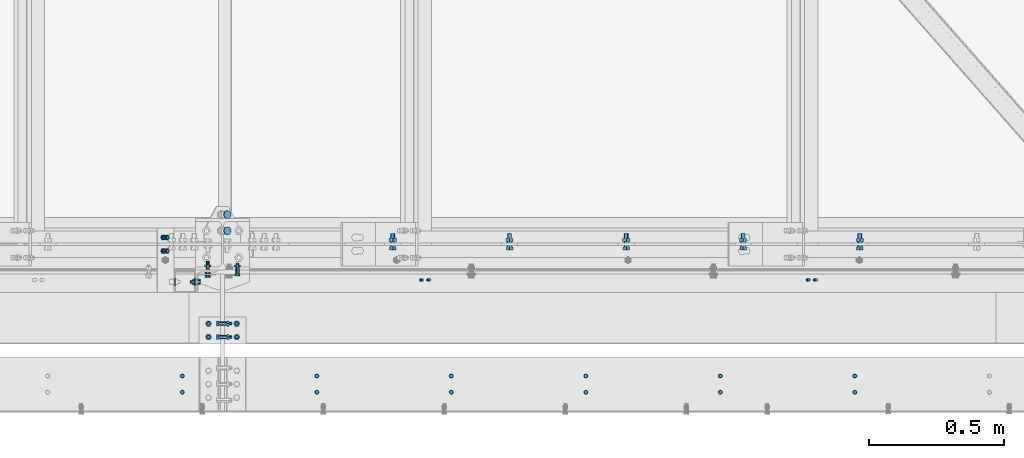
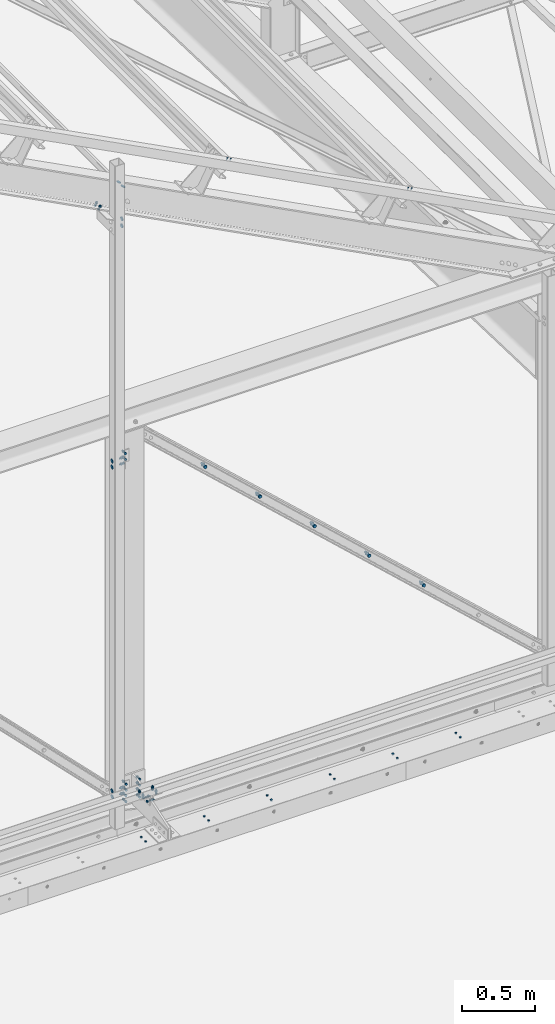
# One storey, part 256 of 362: 28 mechanical fasteners.
"""IFC2X3 building model written with IfcOpenShell, lengths in millimetres."""

import ifcopenshell
import ifcopenshell.guid

model = None  # the IFC model being written
_history = None  # IfcOwnerHistory: only IFC2X3 demands one
_inside = {}  # id of a spatial element -> (the spatial element, [elements in it])
_under = {}  # id of a project, library or spatial element -> (it, [spatial elements below it])
_declared = {}  # id of a project -> (the project, [libraries it declares])
_typed = {}  # id of a type object -> (the type object, [elements of that type])
_made_of = {}  # id of a material, layer set ... -> (it, [elements and type objects made of it])


def new_model(schema):
    """Start an empty IFC model of exactly this schema.

    Asked for "IFC4X3", IfcOpenShell would pick the latest addendum, in which some entities
    have other attributes; the version numbers below select the first issue.
    IFC2X3 requires an IfcOwnerHistory on every rooted entity: one is made here for all.
    """
    global model, _history
    if schema == "IFC4X3":
        model = ifcopenshell.file(schema_version=(4, 3, 0, 0))
    else:
        model = ifcopenshell.file(schema=schema)
    _inside.clear()
    _under.clear()
    _declared.clear()
    _typed.clear()
    _made_of.clear()
    _history = None
    if model.schema == "IFC2X3":
        org = make("IfcOrganization", Name="unknown")
        user = make(
            "IfcPersonAndOrganization",
            ThePerson=make("IfcPerson", FamilyName="unknown"),
            TheOrganization=org,
        )
        app = make(
            "IfcApplication",
            ApplicationDeveloper=org,
            Version="unknown",
            ApplicationFullName="unknown",
            ApplicationIdentifier="unknown",
        )
        _history = make(
            "IfcOwnerHistory",
            OwningUser=user,
            OwningApplication=app,
            ChangeAction="ADDED",
            CreationDate=0,
        )
    return model


def make(cls, **values):
    """One entity of the class cls with the attributes given. An attribute that is None is left unset."""
    return model.create_entity(
        cls, **{name: value for name, value in values.items() if value is not None}
    )


def rooted(cls, **values):
    """An entity with a GlobalId (a new one), such as an element, a storey or a relation."""
    return make(cls, GlobalId=ifcopenshell.guid.new(), OwnerHistory=_history, **values)


def si_unit(unit_type, name, prefix=None):
    """IfcSIUnit, for example si_unit("LENGTHUNIT", "METRE", prefix="MILLI")."""
    return make("IfcSIUnit", UnitType=unit_type, Prefix=prefix, Name=name)


def assignment(units):
    """IfcUnitAssignment: the units of a project."""
    return None if units is None else make("IfcUnitAssignment", Units=units)


def point(xyz):
    """IfcCartesianPoint."""
    return None if xyz is None else make("IfcCartesianPoint", Coordinates=xyz)


def direction(xyz):
    """IfcDirection."""
    return None if xyz is None else make("IfcDirection", DirectionRatios=xyz)


def frame(location, z_axis=None, x_axis=None):
    """IfcAxis2Placement3D, a coordinate frame: its origin and axes. An axis left out is left unset."""
    return make(
        "IfcAxis2Placement3D",
        Location=point(location),
        Axis=direction(z_axis),
        RefDirection=direction(x_axis),
    )


def frame_2d(location, x_axis=None):
    """IfcAxis2Placement2D, a coordinate frame in the plane: its origin and x axis."""
    return make(
        "IfcAxis2Placement2D", Location=point(location), RefDirection=direction(x_axis)
    )


def origin_with_axes():
    """The frame at (0, 0, 0) with the z axis (0, 0, 1) and the x axis (1, 0, 0) written out."""
    return frame((0.0, 0.0, 0.0), z_axis=(0.0, 0.0, 1.0), x_axis=(1.0, 0.0, 0.0))


def origin_2d_with_axis():
    """The frame at (0, 0) in the plane with the x axis (1, 0) written out."""
    return frame_2d((0.0, 0.0), x_axis=(1.0, 0.0))


def place(relative_to, where):
    """IfcLocalPlacement: puts the frame where relative to a parent placement (None: the world)."""
    return make(
        "IfcLocalPlacement", PlacementRelTo=relative_to, RelativePlacement=where
    )


def context(
    kind, dimensions, precision=None, world=None, true_north=None, identifier=None
):
    """IfcGeometricRepresentationContext, for example the 3D "Model" context."""
    return make(
        "IfcGeometricRepresentationContext",
        ContextIdentifier=identifier,
        ContextType=kind,
        CoordinateSpaceDimension=dimensions,
        Precision=precision,
        WorldCoordinateSystem=world,
        TrueNorth=true_north,
    )


def subcontext(parent, identifier, kind, view, scale=None):
    """IfcGeometricRepresentationSubContext, for example "Body" below "Model"."""
    return make(
        "IfcGeometricRepresentationSubContext",
        ContextIdentifier=identifier,
        ContextType=kind,
        ParentContext=parent,
        TargetScale=scale,
        TargetView=view,
    )


def project(units=None, contexts=None):
    """IfcProject with its units and contexts."""
    return rooted(
        "IfcProject",
        Name="project",
        RepresentationContexts=contexts,
        UnitsInContext=assignment(units),
    )


def spatial(cls, under=None, at=None, **own):
    """A site, building, storey or space (cls), placed at a placement, below another one or the project."""
    s = rooted(cls, ObjectPlacement=at, **own)
    if under is not None:
        _under.setdefault(under.id(), (under, []))[1].append(s)
    return s


def polyline(points):
    """IfcPolyline through the points."""
    return make("IfcPolyline", Points=[point(p) for p in points])


def circle_curve(where, radius):
    """IfcCircle in the frame where."""
    return make("IfcCircle", Position=where, Radius=radius)


def parameter(value):
    """IfcParameterValue: where a trimmed curve begins or ends, as a parameter of its basis curve."""
    return model.create_entity("IfcParameterValue", value)


def trimmed(basis, trim1, trim2, sense, master):
    """IfcTrimmedCurve: the piece of a basis curve between two trims."""
    return make(
        "IfcTrimmedCurve",
        BasisCurve=basis,
        Trim1=trim1,
        Trim2=trim2,
        SenseAgreement=sense,
        MasterRepresentation=master,
    )


def segment(curve, same_sense, transition):
    """IfcCompositeCurveSegment."""
    return make(
        "IfcCompositeCurveSegment",
        Transition=transition,
        SameSense=same_sense,
        ParentCurve=curve,
    )


def composite_curve(segments, self_intersect=None):
    """IfcCompositeCurve: segments joined end to end."""
    return make("IfcCompositeCurve", Segments=segments, SelfIntersect=self_intersect)


def profile(cls, at=None, kind="AREA", **sizes):
    """A parametric profile (cls). Its sizes go by their IFC names, for example OverallWidth=200.0."""
    return make(cls, ProfileType=kind, Position=at, **sizes)


def circle(**sizes):
    """IfcCircleProfileDef."""
    return profile("IfcCircleProfileDef", **sizes)


def outline(outer, holes=None, kind="AREA"):
    """IfcArbitraryClosedProfileDef: a profile drawn as a closed curve; with holes, ...WithVoids."""
    if holes is None:
        return make("IfcArbitraryClosedProfileDef", ProfileType=kind, OuterCurve=outer)
    return make(
        "IfcArbitraryProfileDefWithVoids",
        ProfileType=kind,
        OuterCurve=outer,
        InnerCurves=holes,
    )


def extrude(swept, where, along, depth):
    """IfcExtrudedAreaSolid: the profile swept, set in the frame where, extruded along a direction by depth."""
    return make(
        "IfcExtrudedAreaSolid",
        SweptArea=swept,
        Position=where,
        ExtrudedDirection=direction(along),
        Depth=depth,
    )


def shape(context_of_items, identifier, shape_type, items):
    """IfcShapeRepresentation: the items that make up one representation, for example the "Body"."""
    return make(
        "IfcShapeRepresentation",
        ContextOfItems=context_of_items,
        RepresentationIdentifier=identifier,
        RepresentationType=shape_type,
        Items=items,
    )


def source(mapping_origin, context_of_items, identifier, shape_type, items):
    """IfcRepresentationMap: a shape defined once, which mapped items show again and again."""
    return make(
        "IfcRepresentationMap",
        MappingOrigin=mapping_origin,
        MappedRepresentation=shape(context_of_items, identifier, shape_type, items),
    )


def transform(
    local_origin,
    x_axis=None,
    y_axis=None,
    z_axis=None,
    scale=None,
    scale2=None,
    scale3=None,
    uniform=True,
):
    """IfcCartesianTransformationOperator3D, or its non-uniform kind. x_axis, y_axis, z_axis: its Axis1, 2, 3."""
    if uniform:
        return make(
            "IfcCartesianTransformationOperator3D",
            Axis1=direction(x_axis),
            Axis2=direction(y_axis),
            LocalOrigin=point(local_origin),
            Scale=scale,
            Axis3=direction(z_axis),
        )
    return make(
        "IfcCartesianTransformationOperator3DnonUniform",
        Axis1=direction(x_axis),
        Axis2=direction(y_axis),
        LocalOrigin=point(local_origin),
        Scale=scale,
        Axis3=direction(z_axis),
        Scale2=scale2,
        Scale3=scale3,
    )


def mapped(mapping_source, mapping_target):
    """IfcMappedItem: shows the shape of a source again, moved by a transform."""
    return make(
        "IfcMappedItem", MappingSource=mapping_source, MappingTarget=mapping_target
    )


def material(Name=None, Category=None):
    """IfcMaterial."""
    return make("IfcMaterial", Name=Name, Category=Category)


def made_of(thing, what):
    """Note that an element or type object is made of a material, layer set ...; save() writes the relation."""
    if what is not None:
        _made_of.setdefault(what.id(), (what, []))[1].append(thing)
    return thing


def type_object(cls, material=None, **own):
    """A type object (cls), such as IfcWallType, which elements share."""
    return made_of(rooted(cls, **own), material)


def element(
    cls,
    number,
    at=None,
    inside=None,
    cuts=None,
    type_object=None,
    material=None,
    context=None,
    identifier="Body",
    shape_type=None,
    held_by="IfcProductDefinitionShape",
    body=None,
    shapes=None,
    **own,
):
    """One element of the class cls, such as IfcWall. Its Tag is "e" and its number.

    at: its placement. inside: the storey or other place that contains it. cuts: it is an
    opening in that element (IfcRelVoidsElement). A single representation is given by context,
    identifier, shape_type and body (its items); several are given by shapes. held_by: the class
    of the entity that holds the representations. save() writes the other relations.
    """
    e = rooted(cls, Tag="e%d" % number, ObjectPlacement=at, **own)
    if body is not None:
        shapes = [shape(context, identifier, shape_type, body)]
    if shapes is not None:
        e.Representation = make(held_by, Representations=shapes)
    if inside is not None:
        _inside.setdefault(inside.id(), (inside, []))[1].append(e)
    if cuts is not None:
        rooted(
            "IfcRelVoidsElement", RelatingBuildingElement=cuts, RelatedOpeningElement=e
        )
    if type_object is not None:
        _typed.setdefault(type_object.id(), (type_object, []))[1].append(e)
    return made_of(e, material)


def aggregate(whole, parts):
    """IfcRelAggregates: a whole, such as a stair, and the parts it consists of."""
    return rooted("IfcRelAggregates", RelatingObject=whole, RelatedObjects=parts)


def save(model, path):
    """Write the relations noted so far, then the file.

    IfcRelAggregates (storeys below a building ...), IfcRelContainedInSpatialStructure (elements
    in a storey), IfcRelDefinesByType, IfcRelAssociatesMaterial and IfcRelDeclares: one each for
    every whole, place, type object, material and project.
    """
    for whole, parts in _under.values():
        aggregate(whole, parts)
    for where, things in _inside.values():
        rooted(
            "IfcRelContainedInSpatialStructure",
            RelatedElements=things,
            RelatingStructure=where,
        )
    for kind, things in _typed.values():
        rooted("IfcRelDefinesByType", RelatedObjects=things, RelatingType=kind)
    for what, things in _made_of.values():
        rooted("IfcRelAssociatesMaterial", RelatedObjects=things, RelatingMaterial=what)
    for by, libraries in _declared.values():
        rooted("IfcRelDeclares", RelatingContext=by, RelatedDefinitions=libraries)
    model.write(path)


model = new_model("IFC2X3")

# Units and contexts
model_context = context("Model", 3, precision=1e-05, world=origin_with_axes())
body_context = subcontext(model_context, "Body", "Model", "MODEL_VIEW")
ifc_project = project(units=[si_unit("LENGTHUNIT", "METRE", prefix="MILLI"), si_unit("AREAUNIT", "SQUARE_METRE"), si_unit("VOLUMEUNIT", "CUBIC_METRE"), si_unit("MASSUNIT", "GRAM", prefix="KILO"), si_unit("TIMEUNIT", "SECOND"), si_unit("PLANEANGLEUNIT", "RADIAN"), si_unit("SOLIDANGLEUNIT", "STERADIAN"), si_unit("THERMODYNAMICTEMPERATUREUNIT", "DEGREE_CELSIUS"), si_unit("LUMINOUSINTENSITYUNIT", "LUMEN")], contexts=[model_context])

# Site, building, storey
site_placement = place(None, origin_with_axes())
site = spatial("IfcSite", under=ifc_project, at=site_placement, Name="Undefined", CompositionType="ELEMENT")
building_placement = place(site_placement, origin_with_axes())
building = spatial("IfcBuilding", under=site, at=building_placement, Name="Undefined", CompositionType="ELEMENT")
storey_placement = place(building_placement, origin_with_axes())
storey = spatial("IfcBuildingStorey", under=building, at=storey_placement, Name="Undefined", CompositionType="ELEMENT", Elevation=0.0)

# Mechanical fasteners
ifc_material_1 = material(Name="8.8-SB-ZINGUE")
mechanical_fastener_type = type_object("IfcMechanicalFastenerType", Name="Bolt assembly")
shared_shape_1 = source(origin_with_axes(), body_context, "Body", "SweptSolid", [
    extrude(circle(Radius=7.0, at=origin_2d_with_axis()), frame((0.0, -8.5, 0.0), z_axis=(0.0, 1.0, 0.0), x_axis=(1.0, 0.0, 0.0)), (0.0, 0.0, 1.0), 8.6),
])
for number, where, z_axis, x_axis, name in (
    (1, (18464.9989211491, -490.0, 5229.99824538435), (-1.0, 0.0, 0.0), (0.0, -1.0, 0.0), "Bolt assembly"),
    (2, (17964.9989211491, -490.0, 5229.99824538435), (-1.0, 0.0, 0.0), (0.0, -1.0, 0.0), "Bolt assembly"),
    (3, (17464.9989211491, -490.0, 5229.99824538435), (-1.0, 0.0, 0.0), (0.0, -1.0, 0.0), "Bolt assembly"),
    (4, (16964.9989211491, -490.0, 5229.99824538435), (-1.0, 0.0, 0.0), (0.0, -1.0, 0.0), "Bolt assembly"),
    (5, (16464.9989211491, -490.0, 5229.99824538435), (-1.0, 0.0, 0.0), (0.0, -1.0, 0.0), "Bolt assembly"),
    (6, (15964.9989211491, -490.0, 5229.99824538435), (-1.0, 0.0, 0.0), (0.0, -1.0, 0.0), "Bolt assembly"),
):
    element("IfcMechanicalFastener", number, at=place(storey_placement, frame(where, z_axis=z_axis, x_axis=x_axis)), inside=storey, type_object=mechanical_fastener_type, material=ifc_material_1, Name=name, NominalDiameter=12.0, NominalLength=8.5, context=body_context, shape_type="MappedRepresentation", body=[
        mapped(shared_shape_1, transform((0.0, 0.0, 0.0))),
        mapped(shared_shape_1, transform((60.0, 0.0, 0.0))),
    ])
shared_shape_2 = source(origin_with_axes(), body_context, "Body", "SweptSolid", [
    extrude(circle(Radius=7.0, at=origin_2d_with_axis()), frame((0.0, -7.5, 0.0), z_axis=(0.0, 1.0, 0.0), x_axis=(1.0, 0.0, 0.0)), (0.0, 0.0, 1.0), 15.0),
    extrude(circle(Radius=7.0, at=origin_2d_with_axis()), frame((0.0, -15.4, 0.0), z_axis=(0.0, 1.0, 0.0), x_axis=(1.0, 0.0, 0.0)), (0.0, 0.0, 1.0), 8.0),
    extrude(circle(Radius=7.0, at=origin_2d_with_axis()), frame((0.0, 7.39216762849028, 0.0), z_axis=(0.0, 1.0, 0.0), x_axis=(1.0, 0.0, 0.0)), (0.0, 0.0, 1.0), 8.1),
    extrude(outline(polyline([(10.39230484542, 0.0), (5.19615242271, 9.00000000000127), (-5.19615242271, 9.00000000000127), (-10.39230484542, 0.0), (-5.19615242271, -9.00000000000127), (5.19615242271, -9.00000000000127), (10.39230484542, 0.0)])), frame((0.0, -23.42, 0.0), z_axis=(0.0, 1.0, 0.0), x_axis=(1.0, 0.0, 0.0)), (0.0, 0.0, 1.0), 7.92),
    extrude(circle(Radius=6.0, at=origin_2d_with_axis()), frame((0.0, -15.5, 0.0), z_axis=(0.0, 1.0, 0.0), x_axis=(1.0, 0.0, 0.0)), (0.0, 0.0, 1.0), 50.0),
    extrude(outline(polyline([(11.5008173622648, 0.0), (5.7504086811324, 9.96000000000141), (-5.7504086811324, 9.96000000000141), (-11.5008173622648, 0.0), (-5.7504086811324, -9.96000000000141), (5.7504086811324, -9.96000000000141), (11.5008173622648, 0.0)])), frame((0.0, 15.4921676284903, 0.0), z_axis=(0.0, 1.0, 0.0), x_axis=(1.0, 0.0, 0.0)), (0.0, 0.0, 1.0), 7.92),
])
mechanical_fastener_1_placement = place(storey_placement, frame((16114.9985840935, -320.0, 5394.99824538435), z_axis=(0.0, 1.0, 0.0), x_axis=(0.0, 0.0, 1.0)))
element("IfcMechanicalFastener", 7, at=mechanical_fastener_1_placement, inside=storey, type_object=mechanical_fastener_type, material=ifc_material_1, Name="Bolt assembly", NominalDiameter=12.0, NominalLength=50.0, context=body_context, shape_type="MappedRepresentation", body=[
    mapped(shared_shape_2, transform((0.0, 0.0, -25.0))),
    mapped(shared_shape_2, transform((0.0, 0.0, 25.0))),
])
shared_shape_3 = source(origin_with_axes(), body_context, "Body", "SweptSolid", [
    extrude(circle(Radius=7.0, at=origin_2d_with_axis()), frame((0.0, -0.100011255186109, 0.0), z_axis=(0.0, 1.0, 0.0), x_axis=(1.0, 0.0, 0.0)), (0.0, 0.0, 1.0), 4.1),
    extrude(circle(Radius=7.0, at=origin_2d_with_axis()), frame((0.0, -7.9, 0.0), z_axis=(0.0, 1.0, 0.0), x_axis=(1.0, 0.0, 0.0)), (0.0, 0.0, 1.0), 8.0),
    extrude(outline(polyline([(10.39230484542, 0.0), (5.19615242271, 9.00000000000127), (-5.19615242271, 9.00000000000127), (-10.39230484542, 0.0), (-5.19615242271, -9.00000000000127), (5.19615242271, -9.00000000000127), (10.39230484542, 0.0)])), frame((0.0, -15.92, 0.0), z_axis=(0.0, 1.0, 0.0), x_axis=(1.0, 0.0, 0.0)), (0.0, 0.0, 1.0), 7.92),
    extrude(circle(Radius=6.0, at=origin_2d_with_axis()), frame((0.0, -8.0, 0.0), z_axis=(0.0, 1.0, 0.0), x_axis=(1.0, 0.0, 0.0)), (0.0, 0.0, 1.0), 30.0),
    extrude(outline(polyline([(11.5008173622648, 0.0), (5.7504086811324, 9.96000000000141), (-5.7504086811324, 9.96000000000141), (-11.5008173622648, 0.0), (-5.7504086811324, -9.96000000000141), (5.7504086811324, -9.96000000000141), (11.5008173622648, 0.0)])), frame((0.0, 4.00000005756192, 0.0), z_axis=(0.0, 1.0, 0.0), x_axis=(1.0, 0.0, 0.0)), (0.0, 0.0, 1.0), 7.92),
])
for number, where, z_axis, x_axis, name in (
    (8, (16062.4985840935, -320.0, 5449.99824532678), (0.0, -1.0, 0.0), (1.0, 0.0, 0.0), "Bolt assembly"),
    (9, (16167.490751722, -320.0, 5449.99824532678), (0.0, 1.0, 0.0), (-1.0, 0.0, 0.0), "Bolt assembly"),
    (10, (16014.9998811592, -140.000000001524, 8160.00066228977), (0.0, 0.0, 1.0), (0.0, 1.0, 0.0), "Bolt assembly"),
):
    element("IfcMechanicalFastener", number, at=place(storey_placement, frame(where, z_axis=z_axis, x_axis=x_axis)), inside=storey, type_object=mechanical_fastener_type, material=ifc_material_1, Name=name, NominalDiameter=12.0, NominalLength=30.0, context=body_context, shape_type="MappedRepresentation", body=[
        mapped(shared_shape_3, transform((0.0, 0.0, -25.0))),
        mapped(shared_shape_3, transform((0.0, 0.0, 25.0))),
    ])
shared_shape_4 = source(origin_with_axes(), body_context, "Body", "SweptSolid", [
    extrude(circle(Radius=7.0, at=origin_2d_with_axis()), frame((0.0, 4.89855588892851, 0.0), z_axis=(0.0, 1.0, 0.0), x_axis=(1.0, 0.0, 0.0)), (0.0, 0.0, 1.0), 10.1),
    extrude(circle(Radius=7.0, at=origin_2d_with_axis()), frame((0.0, -9.90144411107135, 0.0), z_axis=(0.0, 1.0, 0.0), x_axis=(1.0, 0.0, 0.0)), (0.0, 0.0, 1.0), 15.0),
    extrude(outline(polyline([(10.39230484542, 0.0), (5.19615242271, 9.00000000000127), (-5.19615242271, 9.00000000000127), (-10.39230484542, 0.0), (-5.19615242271, -9.00000000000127), (5.19615242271, -9.00000000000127), (10.39230484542, 0.0)])), frame((0.0, -17.9214441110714, 0.0), z_axis=(0.0, 1.0, 0.0), x_axis=(1.0, 0.0, 0.0)), (0.0, 0.0, 1.0), 7.92),
    extrude(circle(Radius=6.0, at=origin_2d_with_axis()), frame((0.0, -10.0014441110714, 0.0), z_axis=(0.0, 1.0, 0.0), x_axis=(1.0, 0.0, 0.0)), (0.0, 0.0, 1.0), 40.0),
    extrude(outline(polyline([(11.5008173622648, 0.0), (5.7504086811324, 9.96000000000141), (-5.7504086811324, 9.96000000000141), (-11.5008173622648, 0.0), (-5.7504086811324, -9.96000000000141), (5.7504086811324, -9.96000000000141), (11.5008173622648, 0.0)])), frame((0.0, 14.9985558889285, 0.0), z_axis=(0.0, 1.0, 0.0), x_axis=(1.0, 0.0, 0.0)), (0.0, 0.0, 1.0), 7.92),
])
mechanical_fastener_2_placement = place(storey_placement, frame((16169.9984863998, -99.9985558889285, 5290.00066228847), z_axis=(0.0, 0.0, 1.0), x_axis=(1.0, 0.0, 0.0)))
element("IfcMechanicalFastener", 11, at=mechanical_fastener_2_placement, inside=storey, type_object=mechanical_fastener_type, material=ifc_material_1, Name="Bolt assembly", NominalDiameter=12.0, NominalLength=40.0, context=body_context, shape_type="MappedRepresentation", body=[
    mapped(shared_shape_4, transform((0.0, 0.0, 25.0))),
    mapped(shared_shape_4, transform((0.0, 0.0, -25.0))),
])
mechanical_fastener_3_placement = place(storey_placement, frame((16059.9998811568, -99.9985558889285, 5290.00066228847), z_axis=(0.0, 0.0, -1.0), x_axis=(-1.0, 0.0, 0.0)))
element("IfcMechanicalFastener", 12, at=mechanical_fastener_3_placement, inside=storey, type_object=mechanical_fastener_type, material=ifc_material_1, Name="Bolt assembly", NominalDiameter=12.0, NominalLength=40.0, context=body_context, shape_type="MappedRepresentation", body=[
    mapped(shared_shape_4, transform((0.0, 0.0, -25.0))),
    mapped(shared_shape_4, transform((0.0, 0.0, 25.0))),
])
shared_shape_5 = source(origin_with_axes(), body_context, "Body", "SweptSolid", [
    extrude(circle(Radius=7.0, at=origin_2d_with_axis()), frame((0.0, -0.100011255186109, 0.0), z_axis=(0.0, 1.0, 0.0), x_axis=(1.0, 0.0, 0.0)), (0.0, 0.0, 1.0), 10.1),
    extrude(circle(Radius=7.0, at=origin_2d_with_axis()), frame((0.0, -14.899999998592, 0.0), z_axis=(0.0, 1.0, 0.0), x_axis=(1.0, 0.0, 0.0)), (0.0, 0.0, 1.0), 15.0),
    extrude(outline(polyline([(10.39230484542, 0.0), (5.19615242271, 9.00000000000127), (-5.19615242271, 9.00000000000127), (-10.39230484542, 0.0), (-5.19615242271, -9.00000000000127), (5.19615242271, -9.00000000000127), (10.39230484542, 0.0)])), frame((0.0, -22.919999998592, 0.0), z_axis=(0.0, 1.0, 0.0), x_axis=(1.0, 0.0, 0.0)), (0.0, 0.0, 1.0), 7.92),
    extrude(circle(Radius=6.0, at=origin_2d_with_axis()), frame((0.0, -14.999999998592, 0.0), z_axis=(0.0, 1.0, 0.0), x_axis=(1.0, 0.0, 0.0)), (0.0, 0.0, 1.0), 40.0),
    extrude(outline(polyline([(11.5008173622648, 0.0), (5.7504086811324, 9.96000000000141), (-5.7504086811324, 9.96000000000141), (-11.5008173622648, 0.0), (-5.7504086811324, -9.96000000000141), (5.7504086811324, -9.96000000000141), (11.5008173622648, 0.0)])), frame((0.0, 10.0000000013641, 0.0), z_axis=(0.0, 1.0, 0.0), x_axis=(1.0, 0.0, 0.0)), (0.0, 0.0, 1.0), 7.92),
])
mechanical_fastener_4_placement = place(storey_placement, frame((16169.9984864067, -95.0000000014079, 5390.00066228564), z_axis=(0.0, 0.0, 1.0), x_axis=(1.0, 0.0, 0.0)))
element("IfcMechanicalFastener", 13, at=mechanical_fastener_4_placement, inside=storey, type_object=mechanical_fastener_type, material=ifc_material_1, Name="Bolt assembly", NominalDiameter=12.0, NominalLength=40.0, context=body_context, shape_type="MappedRepresentation", body=[
    mapped(shared_shape_5, transform((0.0, 0.0, 25.0))),
    mapped(shared_shape_5, transform((0.0, 0.0, -25.0))),
])
shared_shape_6 = source(origin_with_axes(), body_context, "Body", "SweptSolid", [
    extrude(circle(Radius=7.0, at=origin_2d_with_axis()), frame((0.0, -0.100011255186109, 0.0), z_axis=(0.0, 1.0, 0.0), x_axis=(1.0, 0.0, 0.0)), (0.0, 0.0, 1.0), 10.1),
    extrude(circle(Radius=7.0, at=origin_2d_with_axis()), frame((0.0, -14.999999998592, 0.0), z_axis=(0.0, 1.0, 0.0), x_axis=(1.0, 0.0, 0.0)), (0.0, 0.0, 1.0), 15.0),
    extrude(circle(Radius=7.0, at=origin_2d_with_axis()), frame((0.0, -19.900541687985, 0.0), z_axis=(0.0, 1.0, 0.0), x_axis=(1.0, 0.0, 0.0)), (0.0, 0.0, 1.0), 5.0),
    extrude(outline(polyline([(10.39230484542, 0.0), (5.19615242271, 9.00000000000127), (-5.19615242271, 9.00000000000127), (-10.39230484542, 0.0), (-5.19615242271, -9.00000000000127), (5.19615242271, -9.00000000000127), (10.39230484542, 0.0)])), frame((0.0, -27.920541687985, 0.0), z_axis=(0.0, 1.0, 0.0), x_axis=(1.0, 0.0, 0.0)), (0.0, 0.0, 1.0), 7.92),
    extrude(circle(Radius=6.0, at=origin_2d_with_axis()), frame((0.0, -20.000541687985, 0.0), z_axis=(0.0, 1.0, 0.0), x_axis=(1.0, 0.0, 0.0)), (0.0, 0.0, 1.0), 50.0),
    extrude(outline(polyline([(11.5008173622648, 0.0), (5.7504086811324, 9.96000000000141), (-5.7504086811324, 9.96000000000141), (-11.5008173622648, 0.0), (-5.7504086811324, -9.96000000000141), (5.7504086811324, -9.96000000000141), (11.5008173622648, 0.0)])), frame((0.0, 10.0000000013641, 0.0), z_axis=(0.0, 1.0, 0.0), x_axis=(1.0, 0.0, 0.0)), (0.0, 0.0, 1.0), 7.92),
])
mechanical_fastener_5_placement = place(storey_placement, frame((16059.9998811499, -95.0000000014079, 5390.00066228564), z_axis=(0.0, 0.0, -1.0), x_axis=(-1.0, 0.0, 0.0)))
element("IfcMechanicalFastener", 14, at=mechanical_fastener_5_placement, inside=storey, type_object=mechanical_fastener_type, material=ifc_material_1, Name="Bolt assembly", NominalDiameter=12.0, NominalLength=50.0, context=body_context, shape_type="MappedRepresentation", body=[
    mapped(shared_shape_6, transform((0.0, 0.0, -25.0))),
    mapped(shared_shape_6, transform((0.0, 0.0, 25.0))),
])
ifc_material_2 = material(Name="6.8")
shared_shape_7 = source(origin_with_axes(), body_context, "Body", "SweptSolid", [
    extrude(circle(Radius=15.0, at=origin_2d_with_axis()), frame((0.0, 0.0, 0.0), z_axis=(0.0, 1.0, 0.0), x_axis=(1.0, 0.0, 0.0)), (0.0, 0.0, 1.0), 4.1),
])
mechanical_fastener_6_placement = place(storey_placement, frame((16014.9998811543, -140.000000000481, 10133.0034118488), z_axis=(0.0, -1.0, 0.0), x_axis=(0.0, 0.0, 1.0)))
element("IfcMechanicalFastener", 15, at=mechanical_fastener_6_placement, inside=storey, type_object=mechanical_fastener_type, material=ifc_material_2, Name="Bolt assembly", NominalDiameter=30.0, NominalLength=4.0, context=body_context, shape_type="MappedRepresentation", body=[
    mapped(shared_shape_7, transform((0.0, 0.0, 0.0))),
    mapped(shared_shape_7, transform((60.0, 0.0, 0.0))),
])
shared_shape_8 = source(origin_with_axes(), body_context, "Body", "SweptSolid", [
    extrude(circle(Radius=15.0, at=origin_2d_with_axis()), frame((0.0, -3.99999923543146, 0.0), z_axis=(0.0, 1.0, 0.0), x_axis=(1.0, 0.0, 0.0)), (0.0, 0.0, 1.0), 4.1),
])
for number, where, z_axis, x_axis, name in (
    (16, (15934.9998811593, -140.000000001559, 8160.00066228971), (0.0, 0.0, 1.0), (0.0, 1.0, 0.0), "Bolt assembly"),
    (17, (15934.999881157, -140.000000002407, 5390.00066228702), (0.0, 0.0, 1.0), (0.0, 1.0, 0.0), "Bolt assembly"),
):
    element("IfcMechanicalFastener", number, at=place(storey_placement, frame(where, z_axis=z_axis, x_axis=x_axis)), inside=storey, type_object=mechanical_fastener_type, material=ifc_material_2, Name=name, NominalDiameter=30.0, NominalLength=4.0, context=body_context, shape_type="MappedRepresentation", body=[
        mapped(shared_shape_8, transform((0.0, 0.0, -25.0))),
        mapped(shared_shape_8, transform((0.0, 0.0, 25.0))),
    ])
shared_shape_9 = source(origin_with_axes(), body_context, "Body", "SweptSolid", [
    extrude(circle(Radius=7.0, at=origin_2d_with_axis()), frame((0.0, -0.100011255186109, 0.0), z_axis=(0.0, 1.0, 0.0), x_axis=(1.0, 0.0, 0.0)), (0.0, 0.0, 1.0), 10.1),
    extrude(circle(Radius=7.0, at=origin_2d_with_axis()), frame((0.0, -7.9, 0.0), z_axis=(0.0, 1.0, 0.0), x_axis=(1.0, 0.0, 0.0)), (0.0, 0.0, 1.0), 8.0),
    extrude(outline(polyline([(10.39230484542, 0.0), (5.19615242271, 9.00000000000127), (-5.19615242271, 9.00000000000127), (-10.39230484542, 0.0), (-5.19615242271, -9.00000000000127), (5.19615242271, -9.00000000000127), (10.39230484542, 0.0)])), frame((0.0, -15.92, 0.0), z_axis=(0.0, 1.0, 0.0), x_axis=(1.0, 0.0, 0.0)), (0.0, 0.0, 1.0), 7.92),
    extrude(circle(Radius=6.0, at=origin_2d_with_axis()), frame((0.0, -8.0, 0.0), z_axis=(0.0, 1.0, 0.0), x_axis=(1.0, 0.0, 0.0)), (0.0, 0.0, 1.0), 40.0),
    extrude(outline(polyline([(11.5008173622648, 0.0), (5.7504086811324, 9.96000000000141), (-5.7504086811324, 9.96000000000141), (-11.5008173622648, 0.0), (-5.7504086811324, -9.96000000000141), (5.7504086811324, -9.96000000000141), (11.5008173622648, 0.0)])), frame((0.0, 10.0000000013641, 0.0), z_axis=(0.0, 1.0, 0.0), x_axis=(1.0, 0.0, 0.0)), (0.0, 0.0, 1.0), 7.92),
])
mechanical_fastener_7_placement = place(storey_placement, frame((16059.9998811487, -95.000000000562, 8160.00066228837), z_axis=(0.0, 0.0, -1.0), x_axis=(-1.0, 0.0, 0.0)))
element("IfcMechanicalFastener", 18, at=mechanical_fastener_7_placement, inside=storey, type_object=mechanical_fastener_type, material=ifc_material_1, Name="Bolt assembly", NominalDiameter=12.0, NominalLength=40.0, context=body_context, shape_type="MappedRepresentation", body=[
    mapped(shared_shape_9, transform((0.0, 0.0, -25.0))),
    mapped(shared_shape_9, transform((0.0, 0.0, 25.0))),
])
shared_shape_10 = source(origin_with_axes(), body_context, "Body", "SweptSolid", [
    extrude(circle(Radius=7.0, at=origin_2d_with_axis()), frame((0.0, -0.100011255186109, 0.0), z_axis=(0.0, 1.0, 0.0), x_axis=(1.0, 0.0, 0.0)), (0.0, 0.0, 1.0), 4.1),
    extrude(outline(composite_curve([segment(polyline([(-5.5, 7.0), (5.5, 7.0)]), True, "CONTINUOUS"), segment(trimmed(circle_curve(frame_2d((5.5, 0.0), x_axis=(0.0, 1.0)), 7.0), [parameter(0.0)], [parameter(3.14159265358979)], False, "PARAMETER"), True, "CONTINUOUS"), segment(polyline([(5.5, -7.0), (-5.5, -7.0)]), True, "CONTINUOUS"), segment(trimmed(circle_curve(frame_2d((-5.5, 0.0), x_axis=(0.0, -1.0)), 7.0), [parameter(0.0)], [parameter(3.14159265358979)], False, "PARAMETER"), True, "DISCONTINUOUS")], self_intersect=False)), frame((0.0, -4.90000000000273, 0.0), z_axis=(0.0, 1.0, 0.0), x_axis=(1.0, 0.0, 0.0)), (0.0, 0.0, 1.0), 5.0),
    extrude(outline(polyline([(10.39230484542, 0.0), (5.19615242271, 9.00000000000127), (-5.19615242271, 9.00000000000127), (-10.39230484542, 0.0), (-5.19615242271, -9.00000000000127), (5.19615242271, -9.00000000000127), (10.39230484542, 0.0)])), frame((0.0, -16.8799999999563, 0.0), z_axis=(0.0, 1.0, 0.0), x_axis=(1.0, 0.0, 0.0)), (0.0, 0.0, 1.0), 7.92),
    extrude(circle(Radius=6.0, at=origin_2d_with_axis()), frame((0.0, -8.95999999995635, 0.0), z_axis=(0.0, 1.0, 0.0), x_axis=(1.0, 0.0, 0.0)), (0.0, 0.0, 1.0), 30.0),
    extrude(circle(Radius=10.8, at=origin_2d_with_axis()), frame((0.0, -8.95999999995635, 0.0), z_axis=(0.0, 1.0, 0.0), x_axis=(1.0, 0.0, 0.0)), (0.0, 0.0, 1.0), 3.96),
    extrude(outline(polyline([(11.5008173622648, 0.0), (5.7504086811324, 9.96000000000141), (-5.7504086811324, 9.96000000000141), (-11.5008173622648, 0.0), (-5.7504086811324, -9.96000000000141), (5.7504086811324, -9.96000000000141), (11.5008173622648, 0.0)])), frame((0.0, 4.00000005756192, 0.0), z_axis=(0.0, 1.0, 0.0), x_axis=(1.0, 0.0, 0.0)), (0.0, 0.0, 1.0), 7.92),
])
mechanical_fastener_8_placement = place(storey_placement, frame((16014.9998811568, -140.000000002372, 5390.00066228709), z_axis=(0.0, 0.0, 1.0), x_axis=(0.0, 1.0, 0.0)))
element("IfcMechanicalFastener", 19, at=mechanical_fastener_8_placement, inside=storey, type_object=mechanical_fastener_type, material=ifc_material_1, Name="Bolt assembly", NominalDiameter=12.0, NominalLength=30.0, context=body_context, shape_type="MappedRepresentation", body=[
    mapped(shared_shape_10, transform((0.0, 0.0, -25.0))),
    mapped(shared_shape_10, transform((0.0, 0.0, 25.0))),
])
shared_shape_11 = source(origin_with_axes(), body_context, "Body", "SweptSolid", [
    extrude(circle(Radius=7.0, at=origin_2d_with_axis()), frame((0.0, -0.100011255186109, 0.0), z_axis=(0.0, 1.0, 0.0), x_axis=(1.0, 0.0, 0.0)), (0.0, 0.0, 1.0), 9.9),
    extrude(circle(Radius=7.0, at=origin_2d_with_axis()), frame((0.0, -4.90000000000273, 0.0), z_axis=(0.0, 1.0, 0.0), x_axis=(1.0, 0.0, 0.0)), (0.0, 0.0, 1.0), 5.0),
    extrude(outline(polyline([(10.39230484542, 0.0), (5.19615242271, 9.00000000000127), (-5.19615242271, 9.00000000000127), (-10.39230484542, 0.0), (-5.19615242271, -9.00000000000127), (5.19615242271, -9.00000000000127), (10.39230484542, 0.0)])), frame((0.0, -12.9200004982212, 0.0), z_axis=(0.0, 1.0, 0.0), x_axis=(1.0, 0.0, 0.0)), (0.0, 0.0, 1.0), 7.92),
    extrude(circle(Radius=6.0, at=origin_2d_with_axis()), frame((0.0, -5.00000000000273, 0.0), z_axis=(0.0, 1.0, 0.0), x_axis=(1.0, 0.0, 0.0)), (0.0, 0.0, 1.0), 30.0),
    extrude(outline(polyline([(11.5008173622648, 0.0), (5.7504086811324, 9.96000000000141), (-5.7504086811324, 9.96000000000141), (-11.5008173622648, 0.0), (-5.7504086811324, -9.96000000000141), (5.7504086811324, -9.96000000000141), (11.5008173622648, 0.0)])), frame((0.0, 9.80000019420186, 0.0), z_axis=(0.0, 1.0, 0.0), x_axis=(1.0, 0.0, 0.0)), (0.0, 0.0, 1.0), 7.92),
])
mechanical_fastener_9_placement = place(storey_placement, frame((15899.5566009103, 4.07965217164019e-10, 10251.5442988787), z_axis=(0.0, -1.0, 0.0), x_axis=(0.886081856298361, 3.500000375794e-08, -0.463528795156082)))
element("IfcMechanicalFastener", 20, at=mechanical_fastener_9_placement, inside=storey, type_object=mechanical_fastener_type, material=ifc_material_1, Name="Bolt assembly", NominalDiameter=12.0, NominalLength=30.0, context=body_context, shape_type="MappedRepresentation", body=[
    mapped(shared_shape_11, transform((0.0, 0.0, -25.0))),
    mapped(shared_shape_11, transform((0.0, 0.0, 25.0))),
])
shared_shape_12 = source(origin_with_axes(), body_context, "Body", "SweptSolid", [
    extrude(circle(Radius=9.0, at=origin_2d_with_axis()), frame((0.0, -10.9000000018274, 0.0), z_axis=(0.0, 1.0, 0.0), x_axis=(1.0, 0.0, 0.0)), (0.0, 0.0, 1.0), 6.0),
    extrude(circle(Radius=9.0, at=origin_2d_with_axis()), frame((0.0, 4.9000000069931, 0.0), z_axis=(0.0, 1.0, 0.0), x_axis=(1.0, 0.0, 0.0)), (0.0, 0.0, 1.0), 6.1),
    extrude(circle(Radius=9.0, at=origin_2d_with_axis()), frame((0.0, -3.99999923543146, 0.0), z_axis=(0.0, 1.0, 0.0), x_axis=(1.0, 0.0, 0.0)), (0.0, 0.0, 1.0), 8.0),
    extrude(outline(polyline([(13.85640646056, 0.0), (6.92820323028, 12.0000000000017), (-6.92820323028, 12.0000000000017), (-13.85640646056, 0.0), (-6.92820323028, -12.0000000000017), (6.92820323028, -12.0000000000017), (13.85640646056, 0.0)])), frame((0.0, -21.5600000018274, 0.0), z_axis=(0.0, 1.0, 0.0), x_axis=(1.0, 0.0, 0.0)), (0.0, 0.0, 1.0), 10.56),
    extrude(circle(Radius=8.0, at=origin_2d_with_axis()), frame((0.0, -11.0000000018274, 0.0), z_axis=(0.0, 1.0, 0.0), x_axis=(1.0, 0.0, 0.0)), (0.0, 0.0, 1.0), 50.0),
    extrude(outline(polyline([(15.3344231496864, 0.0), (7.6672115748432, 13.2800000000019), (-7.6672115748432, 13.2800000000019), (-15.3344231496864, 0.0), (-7.6672115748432, -13.2800000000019), (7.6672115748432, -13.2800000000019), (15.3344231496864, 0.0)])), frame((0.0, 11.0000000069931, 0.0), z_axis=(0.0, 1.0, 0.0), x_axis=(1.0, 0.0, 0.0)), (0.0, 0.0, 1.0), 10.56),
])
for number, where, z_axis, x_axis, name in (
    (21, (18483.5346219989, 0.0, 6174.19097699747), (1.0, 0.0, 0.0), (0.0, 0.0, -1.0), "Bolt assembly"),
    (22, (18049.5114890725, 0.0, 6574.73032710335), (1.0, 0.0, 0.0), (0.0, 0.0, -1.0), "Bolt assembly"),
    (23, (17615.4883561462, 0.0, 6975.26967720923), (1.0, 0.0, 0.0), (0.0, 0.0, -1.0), "Bolt assembly"),
    (24, (17181.4652232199, 0.0, 7375.80902731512), (1.0, 0.0, 0.0), (0.0, 0.0, -1.0), "Bolt assembly"),
    (25, (16747.4420902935, 0.0, 7776.348377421), (1.0, 0.0, 0.0), (0.0, 0.0, -1.0), "Bolt assembly"),
):
    element("IfcMechanicalFastener", number, at=place(storey_placement, frame(where, z_axis=z_axis, x_axis=x_axis)), inside=storey, type_object=mechanical_fastener_type, material=ifc_material_1, Name=name, NominalDiameter=16.0, NominalLength=50.0, context=body_context, shape_type="MappedRepresentation", body=[
        mapped(shared_shape_12, transform((0.0, 0.0, 0.0))),
    ])
shared_shape_13 = source(origin_with_axes(), body_context, "Body", "SweptSolid", [
    extrude(circle(Radius=4.0, at=origin_2d_with_axis()), frame((0.0, 0.0, 0.0), z_axis=(0.0, 1.0, 0.0), x_axis=(1.0, 0.0, 0.0)), (0.0, 0.0, 1.0), 7.1),
    extrude(outline(polyline([(5.7735026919, 0.0), (2.88675134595, 5.00000000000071), (-2.88675134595, 5.00000000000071), (-5.7735026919, 0.0), (-2.88675134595, -5.00000000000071), (2.88675134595, -5.00000000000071), (5.7735026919, 0.0)])), frame((0.0, -3.99999923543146, 0.0), z_axis=(0.0, 1.0, 0.0), x_axis=(1.0, 0.0, 0.0)), (0.0, 0.0, 1.0), 4.0),
    extrude(circle(Radius=3.0, at=origin_2d_with_axis()), frame((0.0, 0.0, 0.0), z_axis=(0.0, 1.0, 0.0), x_axis=(1.0, 0.0, 0.0)), (0.0, 0.0, 1.0), 16.0),
    extrude(outline(polyline([(5.7735026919, 0.0), (2.88675134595, 5.00000000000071), (-2.88675134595, 5.00000000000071), (-5.7735026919, 0.0), (-2.88675134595, -5.00000000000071), (2.88675134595, -5.00000000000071), (5.7735026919, 0.0)])), frame((0.0, 7.0, 0.0), z_axis=(0.0, 1.0, 0.0), x_axis=(1.0, 0.0, 0.0)), (0.0, 0.0, 1.0), 5.2),
])
for number, where, z_axis, x_axis, name in (
    (26, (16869.2772030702, -132.499920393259, 10395.4439561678), (-0.886082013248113, 9.38091927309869e-07, 0.463528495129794), (0.0, 1.0, 0.0), "Bolt assembly"),
    (27, (18306.577227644, -132.499920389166, 9643.56157633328), (-0.886082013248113, 9.38091927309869e-07, 0.463528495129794), (0.0, 1.0, 0.0), "Bolt assembly"),
):
    element("IfcMechanicalFastener", number, at=place(storey_placement, frame(where, z_axis=z_axis, x_axis=x_axis)), inside=storey, type_object=mechanical_fastener_type, material=ifc_material_2, Name=name, NominalDiameter=6.0, NominalLength=16.0, context=body_context, shape_type="MappedRepresentation", body=[
        mapped(shared_shape_13, transform((0.0, 0.0, -15.0))),
        mapped(shared_shape_13, transform((0.0, -3.63797880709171e-12, 15.0000000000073))),
    ])
shared_shape_14 = source(origin_with_axes(), body_context, "Body", "SweptSolid", [
    extrude(circle(Radius=15.0, at=origin_2d_with_axis()), frame((0.0, 6.26397177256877e-05, 0.0), z_axis=(0.0, 1.0, 0.0), x_axis=(1.0, 0.0, 0.0)), (0.0, 0.0, 1.0), 4.1),
])
mechanical_fastener_10_placement = place(storey_placement, frame((16133.54118691, 50.0001219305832, 10309.7122644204), z_axis=(-0.886081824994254, 0.0, 0.463528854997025), x_axis=(0.0, 1.0, 0.0)))
element("IfcMechanicalFastener", 28, at=mechanical_fastener_10_placement, inside=storey, type_object=mechanical_fastener_type, material=ifc_material_2, Name="Bolt assembly", NominalDiameter=30.0, NominalLength=4.0, context=body_context, shape_type="MappedRepresentation", body=[
    mapped(shared_shape_14, transform((0.0, 0.0, 0.0))),
    mapped(shared_shape_14, transform((60.0, 0.0, 0.0))),
])

save(model, "model.ifc")
